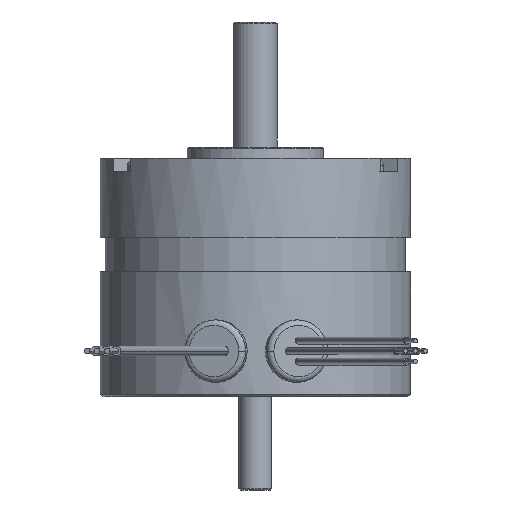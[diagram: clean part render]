
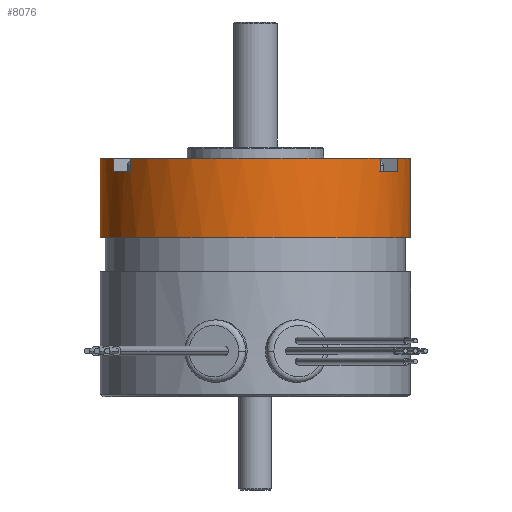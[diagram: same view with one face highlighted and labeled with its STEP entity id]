
A CAD part, front view. The second image highlights one B-rep face of the part: STEP entity #8076.
In plain terms, the highlighted cylindrical face has radius 28.397 mm (diameter 56.794 mm), a partial arc.
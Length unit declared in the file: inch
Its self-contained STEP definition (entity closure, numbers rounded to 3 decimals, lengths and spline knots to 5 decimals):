
#31 = AXIS2_PLACEMENT_3D ( 'NONE', #12242, #5820, #13324 ) ;
#62 = EDGE_CURVE ( 'NONE', #5171, #12698, #8975, .T. ) ;
#113 = CARTESIAN_POINT ( 'NONE',  ( 0., 0., -0.1 ) ) ;
#344 = CARTESIAN_POINT ( 'NONE',  ( 1.02465, -0.44724, 0. ) ) ;
#569 = VERTEX_POINT ( 'NONE', #12978 ) ;
#659 = VERTEX_POINT ( 'NONE', #5353 ) ;
#675 = ORIENTED_EDGE ( 'NONE', *, *, #2052, .F. ) ;
#858 = DIRECTION ( 'NONE',  ( 0., 0., -1. ) ) ;
#1001 = EDGE_CURVE ( 'NONE', #8914, #3818, #11882, .T. ) ;
#1212 = AXIS2_PLACEMENT_3D ( 'NONE', #113, #7620, #1219 ) ;
#1219 = DIRECTION ( 'NONE',  ( -1., 0., 0. ) ) ;
#1283 = VERTEX_POINT ( 'NONE', #4522 ) ;
#1331 = CARTESIAN_POINT ( 'NONE',  ( 1.02465, -0.44724, 0. ) ) ;
#1544 = DIRECTION ( 'NONE',  ( 0., 0., -1. ) ) ;
#1723 = VERTEX_POINT ( 'NONE', #10544 ) ;
#2052 = EDGE_CURVE ( 'NONE', #659, #1723, #6812, .T. ) ;
#2107 = VECTOR ( 'NONE', #6260, 39.37008 ) ;
#2442 = DIRECTION ( 'NONE',  ( 0., 0., -1. ) ) ;
#2576 = DIRECTION ( 'NONE',  ( -1., 0., 0. ) ) ;
#2775 = CIRCLE ( 'NONE', #1212, 1.118 ) ;
#2899 = CARTESIAN_POINT ( 'NONE',  ( 1.118, 0., 0. ) ) ;
#2907 = AXIS2_PLACEMENT_3D ( 'NONE', #7662, #7595, #7730 ) ;
#3262 = AXIS2_PLACEMENT_3D ( 'NONE', #9009, #12144, #2576 ) ;
#3406 = ORIENTED_EDGE ( 'NONE', *, *, #13436, .T. ) ;
#3467 = ORIENTED_EDGE ( 'NONE', *, *, #11948, .F. ) ;
#3564 = ORIENTED_EDGE ( 'NONE', *, *, #62, .F. ) ;
#3818 = VERTEX_POINT ( 'NONE', #3960 ) ;
#3960 = CARTESIAN_POINT ( 'NONE',  ( -1.118, 0., -0.575 ) ) ;
#3988 = ORIENTED_EDGE ( 'NONE', *, *, #1001, .F. ) ;
#4004 = ORIENTED_EDGE ( 'NONE', *, *, #12101, .T. ) ;
#4522 = CARTESIAN_POINT ( 'NONE',  ( -1.118, 0., 0. ) ) ;
#4775 = EDGE_CURVE ( 'NONE', #11776, #8071, #10861, .T. ) ;
#4906 = VERTEX_POINT ( 'NONE', #2899 ) ;
#5039 = ORIENTED_EDGE ( 'NONE', *, *, #12033, .F. ) ;
#5110 = CARTESIAN_POINT ( 'NONE',  ( 1.118, 0., 0. ) ) ;
#5171 = VERTEX_POINT ( 'NONE', #9701 ) ;
#5353 = CARTESIAN_POINT ( 'NONE',  ( 0.89965, -0.66375, 0. ) ) ;
#5627 = ORIENTED_EDGE ( 'NONE', *, *, #7484, .T. ) ;
#5658 = CIRCLE ( 'NONE', #6125, 1.118 ) ;
#5820 = DIRECTION ( 'NONE',  ( 0., 0., -1. ) ) ;
#5879 = ORIENTED_EDGE ( 'NONE', *, *, #6156, .F. ) ;
#6123 = VECTOR ( 'NONE', #9343, 39.37008 ) ;
#6125 = AXIS2_PLACEMENT_3D ( 'NONE', #12740, #6348, #13835 ) ;
#6156 = EDGE_CURVE ( 'NONE', #12400, #5171, #2775, .T. ) ;
#6208 = CYLINDRICAL_SURFACE ( 'NONE', #3262, 1.118 ) ;
#6260 = DIRECTION ( 'NONE',  ( 0., 0., -1. ) ) ;
#6348 = DIRECTION ( 'NONE',  ( 0., 0., -1. ) ) ;
#6417 = DIRECTION ( 'NONE',  ( 0., 0., 1. ) ) ;
#6479 = VECTOR ( 'NONE', #11910, 39.37008 ) ;
#6812 = LINE ( 'NONE', #11860, #6479 ) ;
#6917 = DIRECTION ( 'NONE',  ( 0., 0., 1. ) ) ;
#7484 = EDGE_CURVE ( 'NONE', #4906, #8071, #10243, .T. ) ;
#7526 = FACE_OUTER_BOUND ( 'NONE', #12328, .T. ) ;
#7595 = DIRECTION ( 'NONE',  ( 0., 0., -1. ) ) ;
#7620 = DIRECTION ( 'NONE',  ( 0., 0., 1. ) ) ;
#7662 = CARTESIAN_POINT ( 'NONE',  ( 0., 0., -0.575 ) ) ;
#7730 = DIRECTION ( 'NONE',  ( -1., 0., 0. ) ) ;
#7780 = CARTESIAN_POINT ( 'NONE',  ( -1.118, 0., 0. ) ) ;
#7823 = LINE ( 'NONE', #9454, #2107 ) ;
#7983 = CARTESIAN_POINT ( 'NONE',  ( 0., 0., 0. ) ) ;
#8024 = EDGE_CURVE ( 'NONE', #1283, #3818, #9252, .T. ) ;
#8071 = VERTEX_POINT ( 'NONE', #344 ) ;
#8076 = ADVANCED_FACE ( 'NONE', ( #7526 ), #6208, .T. ) ;
#8820 = ORIENTED_EDGE ( 'NONE', *, *, #11427, .F. ) ;
#8914 = VERTEX_POINT ( 'NONE', #13856 ) ;
#8975 = LINE ( 'NONE', #12714, #6123 ) ;
#9009 = CARTESIAN_POINT ( 'NONE',  ( 0., 0., 0. ) ) ;
#9070 = DIRECTION ( 'NONE',  ( -1., 0., 0. ) ) ;
#9252 = LINE ( 'NONE', #7780, #11696 ) ;
#9343 = DIRECTION ( 'NONE',  ( 0., 0., 1. ) ) ;
#9363 = CARTESIAN_POINT ( 'NONE',  ( -1.02465, -0.44724, -0.1 ) ) ;
#9454 = CARTESIAN_POINT ( 'NONE',  ( -1.02465, -0.44724, 0. ) ) ;
#9701 = CARTESIAN_POINT ( 'NONE',  ( -0.89965, -0.66375, -0.1 ) ) ;
#9842 = ORIENTED_EDGE ( 'NONE', *, *, #8024, .T. ) ;
#10243 = CIRCLE ( 'NONE', #12936, 1.118 ) ;
#10256 = CARTESIAN_POINT ( 'NONE',  ( 1.02465, -0.44724, -0.1 ) ) ;
#10544 = CARTESIAN_POINT ( 'NONE',  ( 0.89965, -0.66375, -0.1 ) ) ;
#10680 = VECTOR ( 'NONE', #858, 39.37008 ) ;
#10795 = ORIENTED_EDGE ( 'NONE', *, *, #4775, .F. ) ;
#10861 = LINE ( 'NONE', #1331, #13384 ) ;
#11427 = EDGE_CURVE ( 'NONE', #1723, #11776, #11861, .T. ) ;
#11657 = CIRCLE ( 'NONE', #31, 1.118 ) ;
#11696 = VECTOR ( 'NONE', #2442, 39.37008 ) ;
#11776 = VERTEX_POINT ( 'NONE', #10256 ) ;
#11860 = CARTESIAN_POINT ( 'NONE',  ( 0.89965, -0.66375, 0. ) ) ;
#11861 = CIRCLE ( 'NONE', #12223, 1.118 ) ;
#11882 = CIRCLE ( 'NONE', #2907, 1.118 ) ;
#11910 = DIRECTION ( 'NONE',  ( 0., 0., -1. ) ) ;
#11948 = EDGE_CURVE ( 'NONE', #4906, #8914, #13543, .T. ) ;
#12033 = EDGE_CURVE ( 'NONE', #569, #12400, #7823, .T. ) ;
#12101 = EDGE_CURVE ( 'NONE', #569, #1283, #5658, .T. ) ;
#12144 = DIRECTION ( 'NONE',  ( 0., 0., -1. ) ) ;
#12223 = AXIS2_PLACEMENT_3D ( 'NONE', #12801, #6417, #13902 ) ;
#12242 = CARTESIAN_POINT ( 'NONE',  ( 0., 0., 0. ) ) ;
#12328 = EDGE_LOOP ( 'NONE', ( #3467, #5627, #10795, #8820, #675, #3406, #3564, #5879, #5039, #4004, #9842, #3988 ) ) ;
#12400 = VERTEX_POINT ( 'NONE', #9363 ) ;
#12698 = VERTEX_POINT ( 'NONE', #13252 ) ;
#12714 = CARTESIAN_POINT ( 'NONE',  ( -0.89965, -0.66375, 0. ) ) ;
#12740 = CARTESIAN_POINT ( 'NONE',  ( 0., 0., 0. ) ) ;
#12801 = CARTESIAN_POINT ( 'NONE',  ( 0., 0., -0.1 ) ) ;
#12936 = AXIS2_PLACEMENT_3D ( 'NONE', #7983, #1544, #9070 ) ;
#12978 = CARTESIAN_POINT ( 'NONE',  ( -1.02465, -0.44724, 0. ) ) ;
#13252 = CARTESIAN_POINT ( 'NONE',  ( -0.89965, -0.66375, 0. ) ) ;
#13324 = DIRECTION ( 'NONE',  ( -1., 0., 0. ) ) ;
#13384 = VECTOR ( 'NONE', #6917, 39.37008 ) ;
#13436 = EDGE_CURVE ( 'NONE', #659, #12698, #11657, .T. ) ;
#13543 = LINE ( 'NONE', #5110, #10680 ) ;
#13835 = DIRECTION ( 'NONE',  ( -1., 0., 0. ) ) ;
#13856 = CARTESIAN_POINT ( 'NONE',  ( 1.118, 0., -0.575 ) ) ;
#13902 = DIRECTION ( 'NONE',  ( -1., 0., 0. ) ) ;
